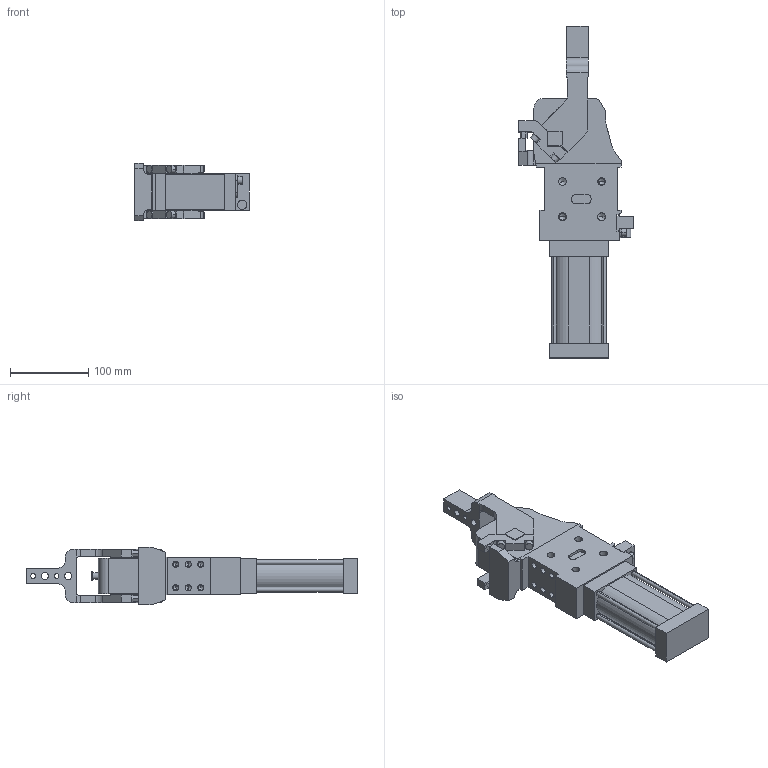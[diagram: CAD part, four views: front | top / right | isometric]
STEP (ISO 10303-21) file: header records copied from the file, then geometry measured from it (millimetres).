
FILE_DESCRIPTION (( 'STEP AP214' ), '1' );
FILE_NAME ('cpl50th1csi1g_75.STEP', '2023-01-26T09:49:49', ( '' ), ( '' ), 'SwSTEP 2.0', 'SolidWorks 2022', '' );
FILE_SCHEMA (( 'AUTOMOTIVE_DESIGN' ));
Length unit declared in the file: millimetre
Products named in the file (4): leva_h1cs_cpl50t; cpl50th1csi1g_75; blocchetto_VEP_0; meccanica_cpl_50_tassello_esterno
Assembly tree (3 placements, depth 2):
  cpl50th1csi1g_75
    meccanica_cpl_50_tassello_esterno
    blocchetto_VEP_0
    leva_h1cs_cpl50t
Bounding box: 146.5 x 424.5 x 74 mm (x, y, z)
Volume: 1418086.7 mm3; surface area: 171707.7 mm2
Topology: 3 solids, 3 shells, 436 faces, 1134 edges, 709 vertices
Faces by surface type: plane 224, cylinder 162, cone 50
Entity records: 14602 total; most frequent: DIRECTION 2310, CARTESIAN_POINT 2309, ORIENTED_EDGE 2176, EDGE_CURVE 1088, AXIS2_PLACEMENT_3D 784, LINE 742, VECTOR 742, VERTEX_POINT 709
